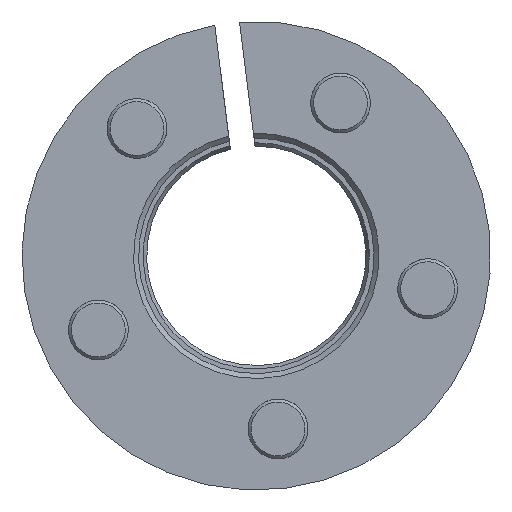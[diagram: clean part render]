
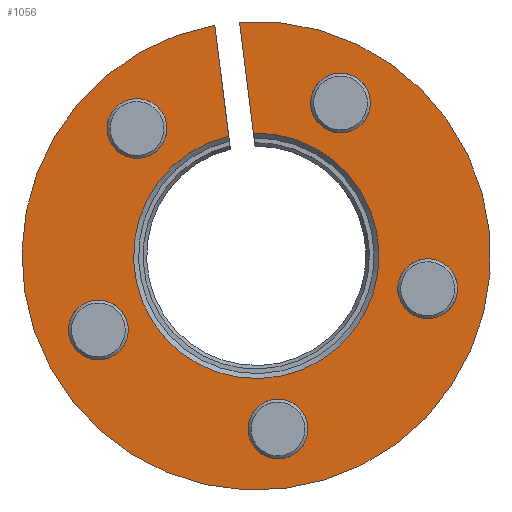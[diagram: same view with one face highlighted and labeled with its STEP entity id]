
A CAD part, left-side view. The second image highlights one B-rep face of the part: STEP entity #1056.
In plain terms, the highlighted planar face has unit normal (-1, 0, 0) as drawn and (1, 0, 0) by its records, which use the part's own axes.
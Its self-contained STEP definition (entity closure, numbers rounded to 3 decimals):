
#60=FACE_BOUND('',#204,.T.);
#61=FACE_BOUND('',#205,.T.);
#62=FACE_BOUND('',#206,.T.);
#63=FACE_BOUND('',#207,.T.);
#64=FACE_BOUND('',#208,.T.);
#109=PLANE('',#1234);
#141=FACE_OUTER_BOUND('',#203,.T.);
#203=EDGE_LOOP('',(#768,#769,#770,#771));
#204=EDGE_LOOP('',(#772));
#205=EDGE_LOOP('',(#773));
#206=EDGE_LOOP('',(#774));
#207=EDGE_LOOP('',(#775));
#208=EDGE_LOOP('',(#776));
#289=LINE('',#1718,#362);
#294=LINE('',#1748,#367);
#362=VECTOR('',#1373,11.22);
#367=VECTOR('',#1380,11.22);
#431=CIRCLE('',#1213,3.);
#433=CIRCLE('',#1216,3.);
#435=CIRCLE('',#1219,3.);
#437=CIRCLE('',#1224,3.);
#439=CIRCLE('',#1227,3.);
#440=CIRCLE('',#1229,12.31);
#443=CIRCLE('',#1233,23.5);
#487=VERTEX_POINT('',#1692);
#489=VERTEX_POINT('',#1698);
#491=VERTEX_POINT('',#1704);
#495=VERTEX_POINT('',#1715);
#496=VERTEX_POINT('',#1717);
#500=VERTEX_POINT('',#1730);
#505=VERTEX_POINT('',#1744);
#507=VERTEX_POINT('',#1752);
#509=VERTEX_POINT('',#1758);
#581=EDGE_CURVE('',#487,#487,#431,.T.);
#584=EDGE_CURVE('',#489,#489,#433,.T.);
#587=EDGE_CURVE('',#491,#491,#435,.T.);
#591=EDGE_CURVE('',#496,#495,#289,.T.);
#601=EDGE_CURVE('',#500,#505,#294,.T.);
#604=EDGE_CURVE('',#507,#507,#437,.T.);
#607=EDGE_CURVE('',#509,#509,#439,.T.);
#608=EDGE_CURVE('',#505,#496,#440,.T.);
#611=EDGE_CURVE('',#500,#495,#443,.T.);
#768=ORIENTED_EDGE('',*,*,#591,.T.);
#769=ORIENTED_EDGE('',*,*,#611,.F.);
#770=ORIENTED_EDGE('',*,*,#601,.T.);
#771=ORIENTED_EDGE('',*,*,#608,.T.);
#772=ORIENTED_EDGE('',*,*,#607,.T.);
#773=ORIENTED_EDGE('',*,*,#604,.T.);
#774=ORIENTED_EDGE('',*,*,#587,.T.);
#775=ORIENTED_EDGE('',*,*,#584,.T.);
#776=ORIENTED_EDGE('',*,*,#581,.T.);
#1056=ADVANCED_FACE('',(#141,#60,#61,#62,#63,#64),#109,.T.);
#1213=AXIS2_PLACEMENT_3D('',#1694,#1353,#1354);
#1216=AXIS2_PLACEMENT_3D('',#1700,#1360,#1361);
#1219=AXIS2_PLACEMENT_3D('',#1706,#1367,#1368);
#1224=AXIS2_PLACEMENT_3D('',#1754,#1386,#1387);
#1227=AXIS2_PLACEMENT_3D('',#1760,#1393,#1394);
#1229=AXIS2_PLACEMENT_3D('',#1762,#1397,#1398);
#1233=AXIS2_PLACEMENT_3D('',#1766,#1405,#1406);
#1234=AXIS2_PLACEMENT_3D('',#1767,#1407,#1408);
#1353=DIRECTION('center_axis',(-1.,0.,0.));
#1354=DIRECTION('ref_axis',(0.,0.,-1.));
#1360=DIRECTION('center_axis',(-1.,0.,0.));
#1361=DIRECTION('ref_axis',(0.,0.,-1.));
#1367=DIRECTION('center_axis',(-1.,0.,0.));
#1368=DIRECTION('ref_axis',(0.,0.,-1.));
#1373=DIRECTION('',(0.,0.,-1.));
#1380=DIRECTION('',(0.,0.,1.));
#1386=DIRECTION('center_axis',(-1.,0.,0.));
#1387=DIRECTION('ref_axis',(0.,0.,-1.));
#1393=DIRECTION('center_axis',(-1.,0.,0.));
#1394=DIRECTION('ref_axis',(0.,0.,-1.));
#1397=DIRECTION('center_axis',(-1.,0.,0.));
#1398=DIRECTION('ref_axis',(0.,-1.,0.));
#1405=DIRECTION('center_axis',(-1.,0.,0.));
#1406=DIRECTION('ref_axis',(0.,-1.,0.));
#1407=DIRECTION('center_axis',(1.,0.,0.));
#1408=DIRECTION('ref_axis',(0.,0.,-1.));
#1692=CARTESIAN_POINT('',(17.,23.5,20.5));
#1694=CARTESIAN_POINT('Origin',(17.,23.5,17.5));
#1698=CARTESIAN_POINT('',(17.,13.214,-11.158));
#1700=CARTESIAN_POINT('Origin',(17.,13.214,-14.158));
#1704=CARTESIAN_POINT('',(17.,40.143,8.408));
#1706=CARTESIAN_POINT('Origin',(17.,40.143,5.408));
#1715=CARTESIAN_POINT('',(17.,24.75,-23.467));
#1717=CARTESIAN_POINT('',(17.,24.75,-12.246));
#1718=CARTESIAN_POINT('',(17.,24.75,-12.246));
#1730=CARTESIAN_POINT('',(17.,22.25,-23.467));
#1744=CARTESIAN_POINT('',(17.,22.25,-12.246));
#1748=CARTESIAN_POINT('',(17.,22.25,-23.467));
#1752=CARTESIAN_POINT('',(17.,33.786,-11.158));
#1754=CARTESIAN_POINT('Origin',(17.,33.786,-14.158));
#1758=CARTESIAN_POINT('',(17.,6.857,8.408));
#1760=CARTESIAN_POINT('Origin',(17.,6.857,5.408));
#1762=CARTESIAN_POINT('Origin',(17.,23.5,0.));
#1766=CARTESIAN_POINT('Origin',(17.,23.5,0.));
#1767=CARTESIAN_POINT('Origin',(17.,5.595,0.));
